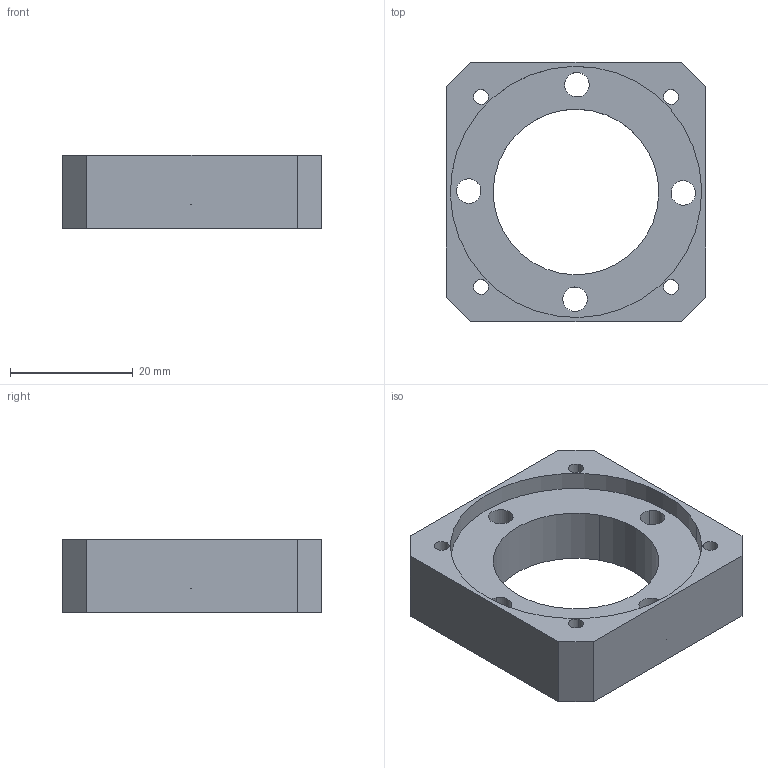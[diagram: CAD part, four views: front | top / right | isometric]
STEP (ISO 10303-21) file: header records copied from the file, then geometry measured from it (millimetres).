
FILE_DESCRIPTION(('CATIA V5 STEP Exchange'),'2;1');
FILE_NAME('C:\Users\Administrateur\Documents\Monture\Monture_voyage\Commande\Interface.stp','2023-03-13T07:11:03+00:00',('none'),('none'),'CATIA Version 5 Release 18 GA (IN-10)','CATIA V5 STEP AP203','none');
FILE_SCHEMA(('CONFIG_CONTROL_DESIGN'));
Length unit declared in the file: millimetre
Products named in the file (1): Interface
Bounding box: 42.3 x 42.3 x 12 mm (x, y, z)
Volume: 10878.7 mm3; surface area: 6272.7 mm2
Topology: 1 solids, 1 shells, 43 faces, 108 edges, 72 vertices
Faces by surface type: cylinder 28, plane 15
Entity records: 1255 total; most frequent: ORIENTED_EDGE 216, CARTESIAN_POINT 207, DIRECTION 160, EDGE_CURVE 108, AXIS2_PLACEMENT_3D 83, VERTEX_POINT 72, EDGE_LOOP 66, CIRCLE 56
